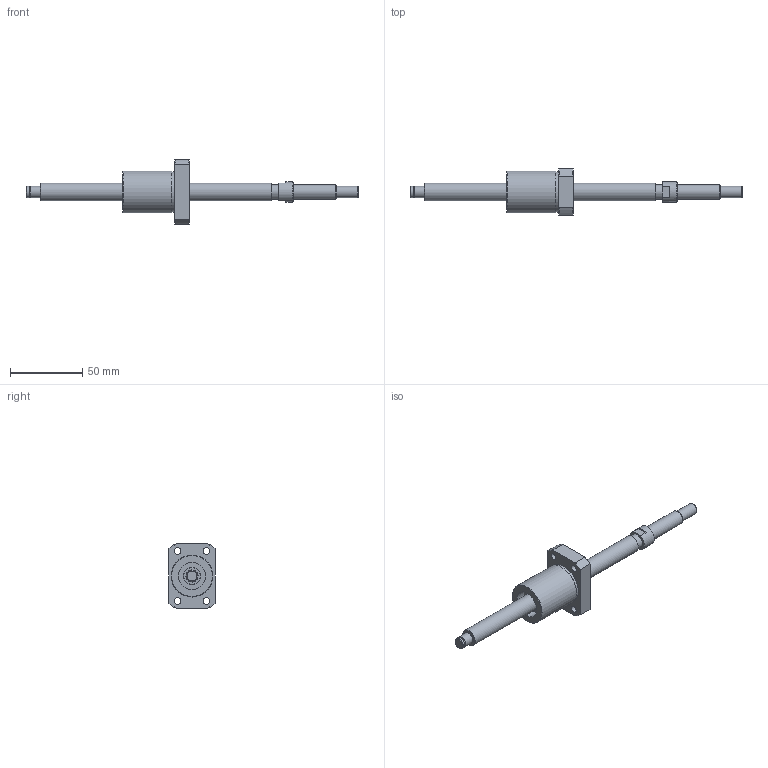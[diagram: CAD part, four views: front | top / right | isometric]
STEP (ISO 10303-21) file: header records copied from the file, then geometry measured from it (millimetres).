
FILE_DESCRIPTION(/* description */ ('STEP AP203'),/* implementation_level */ '2;1');
FILE_NAME(/* name */ 'BNK1208-2.6RRG2+230LC7Y(1030)',/* time_stamp */ '2024-07-09T09:10:58+02:00',/* author */ ('License CC BY-ND 4.0'),/* organization */ ('CADENAS'),/* preprocessor_version */ 'ST-DEVELOPER v19.3',/* originating_system */ 'PARTsolutions',/* authorisation */ ' ');
FILE_SCHEMA (('CONFIG_CONTROL_DESIGN'));
Length unit declared in the file: millimetre
Products named in the file (3): BNK1208-2.6RRG2+230LC7Y(1030); BNK 1208-2.6RRG2+230LC7Y Shaft; BNK 1208-2.6RRG2+230LC7YRR0 Nut
Assembly tree (2 placements, depth 2):
  BNK1208-2.6RRG2+230LC7Y(1030)
    BNK 1208-2.6RRG2+230LC7Y Shaft
    BNK 1208-2.6RRG2+230LC7YRR0 Nut
Bounding box: 230 x 32 x 45 mm (x, y, z)
Volume: 52499.2 mm3; surface area: 18729.6 mm2
Topology: 2 solids, 2 shells, 76 faces, 158 edges, 101 vertices
Faces by surface type: plane 29, cylinder 29, cone 16, torus 2
Full cylindrical faces by diameter (mm): 3 x3, 4.5 x4, 4.917 x1, 7.6 x1, 8 x7, 10 x2, 12 x2, 14 x1, 19 x2, 28.4 x1, 29 x1
Entity records: 1972 total; most frequent: CARTESIAN_POINT 385, DIRECTION 332, ORIENTED_EDGE 236, AXIS2_PLACEMENT_3D 154, FACE_BOUND 140, EDGE_LOOP 139, EDGE_CURVE 118, VERTEX_POINT 98
